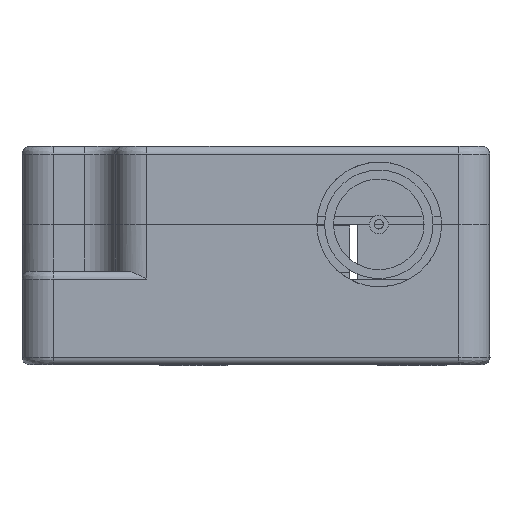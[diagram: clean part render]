
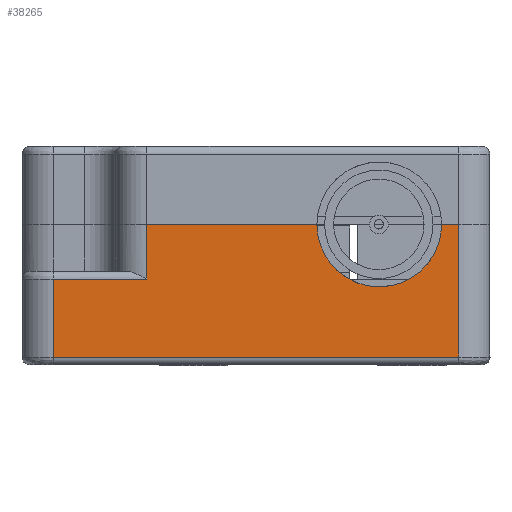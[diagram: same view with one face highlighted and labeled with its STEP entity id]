
A CAD part, left-side view. The second image highlights one B-rep face of the part: STEP entity #38265.
In plain terms, the highlighted planar face has unit normal (-1, 0, 0).
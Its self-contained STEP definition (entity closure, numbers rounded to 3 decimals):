
#53 = CARTESIAN_POINT ( 'NONE',  ( -75.253, 38.658, 102.411 ) ) ;
#420 = CARTESIAN_POINT ( 'NONE',  ( -75.253, 25.658, 98.161 ) ) ;
#1367 = CARTESIAN_POINT ( 'NONE',  ( -75.253, 12.658, 102.411 ) ) ;
#1453 = ORIENTED_EDGE ( 'NONE', *, *, #17025, .F. ) ;
#1825 = EDGE_CURVE ( 'NONE', #28403, #33558, #23947, .T. ) ;
#1961 = CARTESIAN_POINT ( 'NONE',  ( -75.253, 12.658, 98.161 ) ) ;
#2588 = CARTESIAN_POINT ( 'NONE',  ( -75.253, 32.658, 104.901 ) ) ;
#3218 = EDGE_CURVE ( 'NONE', #34216, #19911, #15701, .T. ) ;
#4438 = CARTESIAN_POINT ( 'NONE',  ( -75.253, 32.658, 106.661 ) ) ;
#5566 = VECTOR ( 'NONE', #23888, 1000. ) ;
#5707 = CARTESIAN_POINT ( 'NONE',  ( -75.253, 38.658, 98.161 ) ) ;
#6027 = ORIENTED_EDGE ( 'NONE', *, *, #23098, .F. ) ;
#6222 = AXIS2_PLACEMENT_3D ( 'NONE', #7060, #19746, #10656 ) ;
#6360 = LINE ( 'NONE', #2588, #9252 ) ;
#6818 = EDGE_CURVE ( 'NONE', #26838, #35911, #6977, .T. ) ;
#6977 = LINE ( 'NONE', #38738, #5566 ) ;
#7060 = CARTESIAN_POINT ( 'NONE',  ( -75.253, 12.658, 106.661 ) ) ;
#8892 = CARTESIAN_POINT ( 'NONE',  ( -75.253, 13.758, 106.661 ) ) ;
#9252 = VECTOR ( 'NONE', #30362, 1000. ) ;
#9818 = EDGE_CURVE ( 'NONE', #26838, #28403, #6360, .T. ) ;
#10656 = DIRECTION ( 'NONE',  ( 0., 0., -1. ) ) ;
#10860 = VERTEX_POINT ( 'NONE', #8892 ) ;
#10934 = VECTOR ( 'NONE', #33585, 1000. ) ;
#11064 = CARTESIAN_POINT ( 'NONE',  ( -75.253, 12.658, 106.661 ) ) ;
#11903 = DIRECTION ( 'NONE',  ( 0., 0., 1. ) ) ;
#12300 = CARTESIAN_POINT ( 'NONE',  ( -75.253, 17.758, 106.661 ) ) ;
#13592 = PLANE ( 'NONE',  #6222 ) ;
#13744 = LINE ( 'NONE', #15041, #25225 ) ;
#14906 = EDGE_LOOP ( 'NONE', ( #22560, #19647, #16896, #6027, #1453, #28558, #24153, #34621 ) ) ;
#15041 = CARTESIAN_POINT ( 'NONE',  ( -75.253, 14.908, 106.661 ) ) ;
#15466 = CARTESIAN_POINT ( 'NONE',  ( -75.253, 35.64, 103.161 ) ) ;
#15701 = LINE ( 'NONE', #420, #33428 ) ;
#15913 = CARTESIAN_POINT ( 'NONE',  ( -75.253, 38.658, 103.161 ) ) ;
#16896 = ORIENTED_EDGE ( 'NONE', *, *, #3218, .T. ) ;
#17025 = EDGE_CURVE ( 'NONE', #10860, #21654, #13744, .T. ) ;
#18556 = DIRECTION ( 'NONE',  ( 0., 1., 0. ) ) ;
#18844 = CARTESIAN_POINT ( 'NONE',  ( -75.253, 32.658, 103.161 ) ) ;
#19082 = LINE ( 'NONE', #53, #10934 ) ;
#19477 = EDGE_CURVE ( 'NONE', #35911, #10860, #20841, .T. ) ;
#19647 = ORIENTED_EDGE ( 'NONE', *, *, #32368, .F. ) ;
#19746 = DIRECTION ( 'NONE',  ( 1., 0., 0. ) ) ;
#19911 = VERTEX_POINT ( 'NONE', #1961 ) ;
#20841 = CIRCLE ( 'NONE', #29008, 4. ) ;
#21654 = VERTEX_POINT ( 'NONE', #11064 ) ;
#22560 = ORIENTED_EDGE ( 'NONE', *, *, #1825, .T. ) ;
#22738 = DIRECTION ( 'NONE',  ( 0., 0., -1. ) ) ;
#23098 = EDGE_CURVE ( 'NONE', #21654, #19911, #36732, .T. ) ;
#23438 = VECTOR ( 'NONE', #18556, 1000. ) ;
#23625 = FACE_OUTER_BOUND ( 'NONE', #14906, .T. ) ;
#23888 = DIRECTION ( 'NONE',  ( 0., -1., 0. ) ) ;
#23947 = LINE ( 'NONE', #15466, #23438 ) ;
#24153 = ORIENTED_EDGE ( 'NONE', *, *, #6818, .F. ) ;
#25225 = VECTOR ( 'NONE', #30173, 1000. ) ;
#26838 = VERTEX_POINT ( 'NONE', #4438 ) ;
#28403 = VERTEX_POINT ( 'NONE', #18844 ) ;
#28558 = ORIENTED_EDGE ( 'NONE', *, *, #19477, .F. ) ;
#29008 = AXIS2_PLACEMENT_3D ( 'NONE', #12300, #30216, #11903 ) ;
#30173 = DIRECTION ( 'NONE',  ( 0., -1., 0. ) ) ;
#30216 = DIRECTION ( 'NONE',  ( -1., 0., 0. ) ) ;
#30362 = DIRECTION ( 'NONE',  ( 0., 0., -1. ) ) ;
#32368 = EDGE_CURVE ( 'NONE', #34216, #33558, #19082, .T. ) ;
#33428 = VECTOR ( 'NONE', #34491, 1000. ) ;
#33558 = VERTEX_POINT ( 'NONE', #15913 ) ;
#33585 = DIRECTION ( 'NONE',  ( 0., 0., 1. ) ) ;
#34216 = VERTEX_POINT ( 'NONE', #5707 ) ;
#34491 = DIRECTION ( 'NONE',  ( 0., -1., 0. ) ) ;
#34621 = ORIENTED_EDGE ( 'NONE', *, *, #9818, .T. ) ;
#34799 = VECTOR ( 'NONE', #22738, 1000. ) ;
#35911 = VERTEX_POINT ( 'NONE', #36700 ) ;
#36700 = CARTESIAN_POINT ( 'NONE',  ( -75.253, 21.758, 106.661 ) ) ;
#36732 = LINE ( 'NONE', #1367, #34799 ) ;
#38265 = ADVANCED_FACE ( 'NONE', ( #23625 ), #13592, .F. ) ;
#38738 = CARTESIAN_POINT ( 'NONE',  ( -75.253, 31.208, 106.661 ) ) ;
